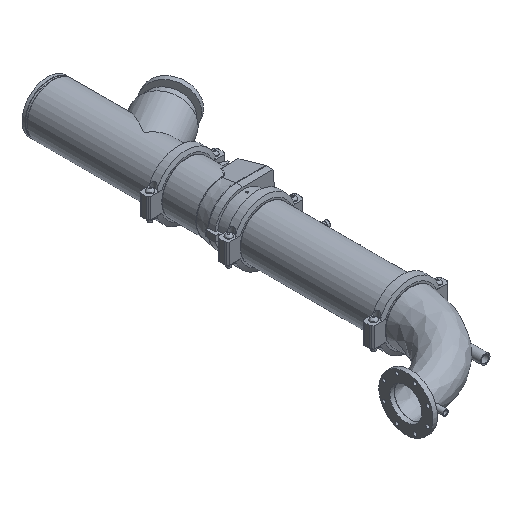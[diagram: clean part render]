
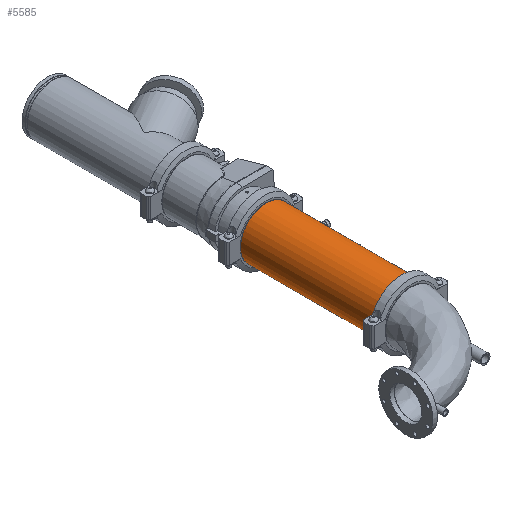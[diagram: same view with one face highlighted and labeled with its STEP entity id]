
A CAD part, isometric view. The second image highlights one B-rep face of the part: STEP entity #5585.
In plain terms, the highlighted cylindrical face has radius 161.925 mm (diameter 323.85 mm), a full revolution.
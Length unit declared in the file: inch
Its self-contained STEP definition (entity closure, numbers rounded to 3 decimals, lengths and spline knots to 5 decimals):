
#157=LINE('',#8506,#554);
#554=VECTOR('',#6777,6.375);
#951=CYLINDRICAL_SURFACE('',#6088,6.375);
#1139=FACE_OUTER_BOUND('',#1454,.T.);
#1454=EDGE_LOOP('',(#3515,#3516,#3517,#3518,#3519,#3520));
#1849=CIRCLE('',#6086,6.375);
#1850=CIRCLE('',#6087,6.375);
#1851=CIRCLE('',#6089,6.375);
#1852=CIRCLE('',#6090,6.375);
#2177=VERTEX_POINT('',#8497);
#2178=VERTEX_POINT('',#8498);
#2179=VERTEX_POINT('',#8502);
#2180=VERTEX_POINT('',#8503);
#2720=EDGE_CURVE('',#2177,#2178,#1849,.T.);
#2721=EDGE_CURVE('',#2178,#2177,#1850,.T.);
#2722=EDGE_CURVE('',#2179,#2180,#1851,.T.);
#2723=EDGE_CURVE('',#2180,#2179,#1852,.T.);
#2724=EDGE_CURVE('',#2180,#2178,#157,.T.);
#3515=ORIENTED_EDGE('',*,*,#2722,.F.);
#3516=ORIENTED_EDGE('',*,*,#2723,.F.);
#3517=ORIENTED_EDGE('',*,*,#2724,.T.);
#3518=ORIENTED_EDGE('',*,*,#2721,.T.);
#3519=ORIENTED_EDGE('',*,*,#2720,.T.);
#3520=ORIENTED_EDGE('',*,*,#2724,.F.);
#5585=ADVANCED_FACE('',(#1139),#951,.T.);
#6086=AXIS2_PLACEMENT_3D('',#8499,#6767,#6768);
#6087=AXIS2_PLACEMENT_3D('',#8500,#6769,#6770);
#6088=AXIS2_PLACEMENT_3D('',#8501,#6771,#6772);
#6089=AXIS2_PLACEMENT_3D('',#8504,#6773,#6774);
#6090=AXIS2_PLACEMENT_3D('',#8505,#6775,#6776);
#6767=DIRECTION('center_axis',(1.,0.,0.));
#6768=DIRECTION('ref_axis',(0.,0.,-1.));
#6769=DIRECTION('center_axis',(1.,0.,0.));
#6770=DIRECTION('ref_axis',(0.,0.,-1.));
#6771=DIRECTION('center_axis',(1.,0.,0.));
#6772=DIRECTION('ref_axis',(0.,1.,0.));
#6773=DIRECTION('center_axis',(1.,0.,0.));
#6774=DIRECTION('ref_axis',(0.,0.,-1.));
#6775=DIRECTION('center_axis',(1.,0.,0.));
#6776=DIRECTION('ref_axis',(0.,0.,-1.));
#6777=DIRECTION('',(-1.,0.,0.));
#8497=CARTESIAN_POINT('',(-16.8085,6.375,0.));
#8498=CARTESIAN_POINT('',(-16.8085,-6.375,0.));
#8499=CARTESIAN_POINT('Origin',(-16.8085,0.,0.));
#8500=CARTESIAN_POINT('Origin',(-16.8085,0.,0.));
#8501=CARTESIAN_POINT('Origin',(0.,0.,0.));
#8502=CARTESIAN_POINT('',(16.8085,6.375,0.));
#8503=CARTESIAN_POINT('',(16.8085,-6.375,0.));
#8504=CARTESIAN_POINT('Origin',(16.8085,0.,0.));
#8505=CARTESIAN_POINT('Origin',(16.8085,0.,0.));
#8506=CARTESIAN_POINT('',(0.,-6.375,0.));
